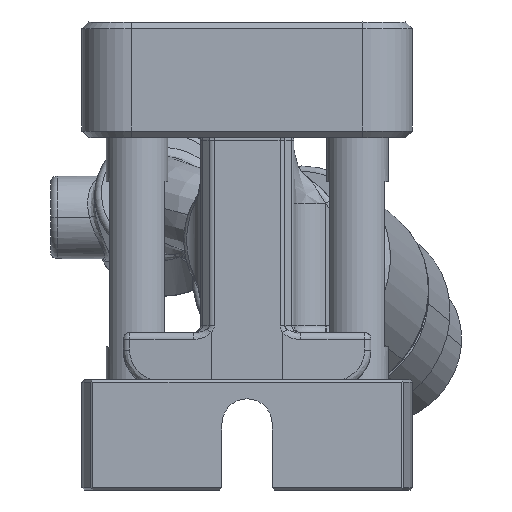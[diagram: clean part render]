
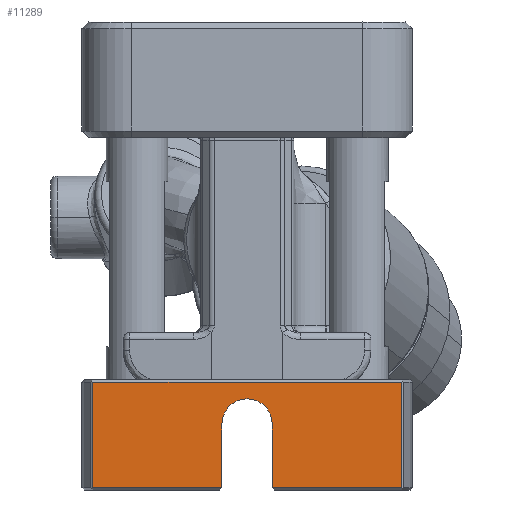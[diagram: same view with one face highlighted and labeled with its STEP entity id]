
A CAD part, front view. The second image highlights one B-rep face of the part: STEP entity #11289.
In plain terms, the highlighted planar face has unit normal (0, -1, 0).
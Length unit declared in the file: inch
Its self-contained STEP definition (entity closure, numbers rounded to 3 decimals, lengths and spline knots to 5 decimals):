
#10871=DIRECTION('',(-1.,0.,0.));
#10872=VECTOR('',#10871,0.586);
#10873=CARTESIAN_POINT('',(0.7,-0.25,-1.61));
#10874=LINE('',#10873,#10872);
#10875=DIRECTION('',(0.,0.,1.));
#10876=VECTOR('',#10875,0.29);
#10877=CARTESIAN_POINT('',(0.114,-0.25,-1.61));
#10878=LINE('',#10877,#10876);
#10879=CARTESIAN_POINT('',(0.,-0.25,-1.32));
#10880=DIRECTION('',(0.,1.,0.));
#10881=DIRECTION('',(-1.,0.,0.));
#10882=AXIS2_PLACEMENT_3D('',#10879,#10880,#10881);
#10884=DIRECTION('',(0.,0.,1.));
#10885=VECTOR('',#10884,0.29);
#10886=CARTESIAN_POINT('',(-0.114,-0.25,-1.61));
#10887=LINE('',#10886,#10885);
#10888=DIRECTION('',(-1.,0.,0.));
#10889=VECTOR('',#10888,0.586);
#10890=CARTESIAN_POINT('',(-0.114,-0.25,-1.61));
#10891=LINE('',#10890,#10889);
#10892=DIRECTION('',(0.,0.,1.));
#10893=VECTOR('',#10892,0.48);
#10894=CARTESIAN_POINT('',(-0.7,-0.25,-1.61));
#10895=LINE('',#10894,#10893);
#10896=DIRECTION('',(1.,0.,0.));
#10897=VECTOR('',#10896,1.4);
#10898=CARTESIAN_POINT('',(-0.7,-0.25,-1.13));
#10899=LINE('',#10898,#10897);
#10900=DIRECTION('',(0.,0.,-1.));
#10901=VECTOR('',#10900,0.48);
#10902=CARTESIAN_POINT('',(0.7,-0.25,-1.13));
#10903=LINE('',#10902,#10901);
#10998=CARTESIAN_POINT('',(-0.7,-0.25,-1.13));
#10999=VERTEX_POINT('',#10998);
#11000=CARTESIAN_POINT('',(-0.7,-0.25,-1.61));
#11001=VERTEX_POINT('',#11000);
#11007=CARTESIAN_POINT('',(0.7,-0.25,-1.61));
#11008=VERTEX_POINT('',#11007);
#11009=CARTESIAN_POINT('',(0.7,-0.25,-1.13));
#11010=VERTEX_POINT('',#11009);
#11022=CARTESIAN_POINT('',(0.114,-0.25,-1.61));
#11023=VERTEX_POINT('',#11022);
#11024=CARTESIAN_POINT('',(-0.114,-0.25,-1.61));
#11025=VERTEX_POINT('',#11024);
#11034=CARTESIAN_POINT('',(-0.114,-0.25,-1.32));
#11035=CARTESIAN_POINT('',(0.114,-0.25,-1.32));
#11036=VERTEX_POINT('',#11034);
#11037=VERTEX_POINT('',#11035);
#11272=CARTESIAN_POINT('',(0.70711,-0.25,-1.755));
#11273=DIRECTION('',(0.,1.,0.));
#11274=DIRECTION('',(-1.,0.,0.));
#11275=AXIS2_PLACEMENT_3D('',#11272,#11273,#11274);
#11276=PLANE('',#11275);
#11277=ORIENTED_EDGE('',*,*,#11180,.T.);
#11278=ORIENTED_EDGE('',*,*,#11227,.T.);
#11279=ORIENTED_EDGE('',*,*,#11240,.F.);
#11280=ORIENTED_EDGE('',*,*,#11253,.F.);
#11281=ORIENTED_EDGE('',*,*,#11198,.T.);
#11282=ORIENTED_EDGE('',*,*,#11083,.T.);
#11284=ORIENTED_EDGE('',*,*,#11283,.T.);
#11286=ORIENTED_EDGE('',*,*,#11285,.T.);
#11287=EDGE_LOOP('',(#11277,#11278,#11279,#11280,#11281,#11282,#11284,#11286));
#11288=FACE_OUTER_BOUND('',#11287,.F.);
#11289=ADVANCED_FACE('',(#11288),#11276,.F.);
#10883=CIRCLE('',#10882,0.114);
#11083=EDGE_CURVE('',#11001,#10999,#10895,.T.);
#11180=EDGE_CURVE('',#11008,#11023,#10874,.T.);
#11198=EDGE_CURVE('',#11025,#11001,#10891,.T.);
#11227=EDGE_CURVE('',#11023,#11037,#10878,.T.);
#11240=EDGE_CURVE('',#11036,#11037,#10883,.T.);
#11253=EDGE_CURVE('',#11025,#11036,#10887,.T.);
#11283=EDGE_CURVE('',#10999,#11010,#10899,.T.);
#11285=EDGE_CURVE('',#11010,#11008,#10903,.T.);
